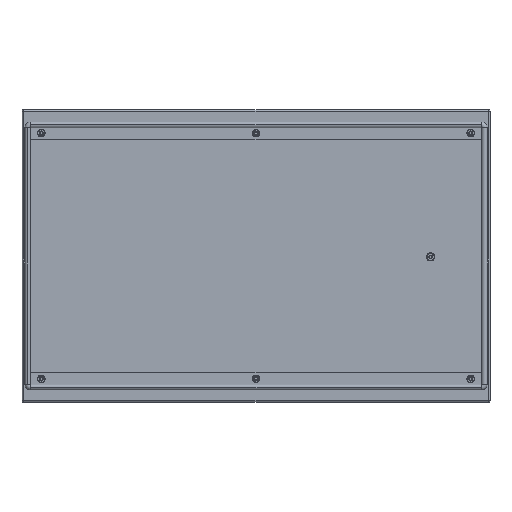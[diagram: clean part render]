
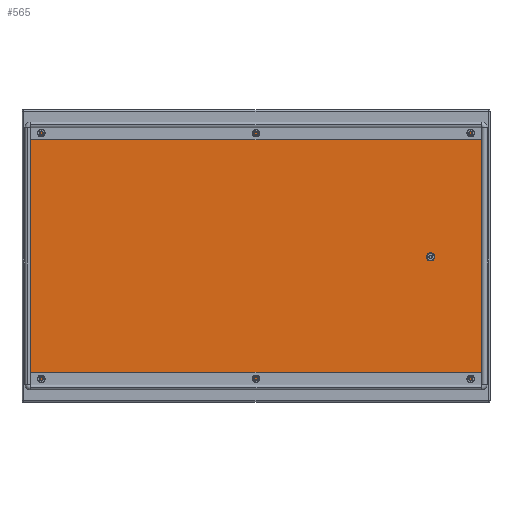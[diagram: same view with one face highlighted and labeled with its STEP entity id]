
A CAD part, top view. The second image highlights one B-rep face of the part: STEP entity #565.
In plain terms, the highlighted planar face has unit normal (0, 0, 1).
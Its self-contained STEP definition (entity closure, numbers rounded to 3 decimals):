
#247 = EDGE_CURVE ( 'NONE', #3568, #3566, #3117, .T. ) ;
#307 = EDGE_CURVE ( 'NONE', #3537, #3510, #3465, .T. ) ;
#308 = EDGE_CURVE ( 'NONE', #3549, #3537, #3889, .T. ) ;
#309 = EDGE_CURVE ( 'NONE', #3510, #3513, #3886, .T. ) ;
#310 = EDGE_CURVE ( 'NONE', #3513, #3507, #3479, .T. ) ;
#311 = EDGE_CURVE ( 'NONE', #3507, #3509, #3880, .T. ) ;
#312 = EDGE_CURVE ( 'NONE', #3509, #3506, #3474, .T. ) ;
#313 = EDGE_CURVE ( 'NONE', #3506, #3508, #3874, .T. ) ;
#314 = EDGE_CURVE ( 'NONE', #3508, #3549, #3412, .T. ) ;
#315 = EDGE_CURVE ( 'NONE', #3566, #3568, #3459, .T. ) ;
#565 = ADVANCED_FACE ( 'NONE', ( #4877, #4876 ), #1064, .T. ) ;
#717 = CARTESIAN_POINT ( 'NONE',  ( 294.5, -1.5, 0. ) ) ;
#719 = CARTESIAN_POINT ( 'NONE',  ( 302.5, -1.5, 0. ) ) ;
#736 = CARTESIAN_POINT ( 'NONE',  ( -398.5, 245.5, 0. ) ) ;
#748 = CARTESIAN_POINT ( 'NONE',  ( -398.5, -245.5, 0. ) ) ;
#772 = CARTESIAN_POINT ( 'NONE',  ( 395.5, -248.5, 0. ) ) ;
#774 = CARTESIAN_POINT ( 'NONE',  ( -395.5, -248.5, 0. ) ) ;
#775 = CARTESIAN_POINT ( 'NONE',  ( 398.5, 245.5, 0. ) ) ;
#776 = CARTESIAN_POINT ( 'NONE',  ( -395.5, 248.5, 0. ) ) ;
#777 = CARTESIAN_POINT ( 'NONE',  ( 398.5, -245.5, 0. ) ) ;
#778 = CARTESIAN_POINT ( 'NONE',  ( 395.5, 248.5, 0. ) ) ;
#1061 = DIRECTION ( 'NONE',  ( 1., 0., 0. ) ) ;
#1062 = DIRECTION ( 'NONE',  ( 0., 0., 1. ) ) ;
#1063 = CARTESIAN_POINT ( 'NONE',  ( 0., 0., 0. ) ) ;
#1064 = PLANE ( 'NONE',  #4883 ) ;
#1756 = EDGE_LOOP ( 'NONE', ( #2372, #2377 ) ) ;
#1781 = EDGE_LOOP ( 'NONE', ( #2358, #2362, #2368, #2355, #2359, #2360, #2367, #2369 ) ) ;
#2355 = ORIENTED_EDGE ( 'NONE', *, *, #310, .T. ) ;
#2358 = ORIENTED_EDGE ( 'NONE', *, *, #308, .T. ) ;
#2359 = ORIENTED_EDGE ( 'NONE', *, *, #311, .T. ) ;
#2360 = ORIENTED_EDGE ( 'NONE', *, *, #312, .T. ) ;
#2362 = ORIENTED_EDGE ( 'NONE', *, *, #307, .T. ) ;
#2367 = ORIENTED_EDGE ( 'NONE', *, *, #313, .T. ) ;
#2368 = ORIENTED_EDGE ( 'NONE', *, *, #309, .T. ) ;
#2369 = ORIENTED_EDGE ( 'NONE', *, *, #314, .T. ) ;
#2372 = ORIENTED_EDGE ( 'NONE', *, *, #315, .T. ) ;
#2377 = ORIENTED_EDGE ( 'NONE', *, *, #247, .T. ) ;
#3117 = CIRCLE ( 'NONE', #5357, 4. ) ;
#3412 = CIRCLE ( 'NONE', #5006, 3. ) ;
#3459 = CIRCLE ( 'NONE', #5010, 4. ) ;
#3465 = CIRCLE ( 'NONE', #5005, 3. ) ;
#3474 = CIRCLE ( 'NONE', #5007, 3. ) ;
#3479 = CIRCLE ( 'NONE', #5008, 3. ) ;
#3506 = VERTEX_POINT ( 'NONE', #778 ) ;
#3507 = VERTEX_POINT ( 'NONE', #777 ) ;
#3508 = VERTEX_POINT ( 'NONE', #776 ) ;
#3509 = VERTEX_POINT ( 'NONE', #775 ) ;
#3510 = VERTEX_POINT ( 'NONE', #774 ) ;
#3513 = VERTEX_POINT ( 'NONE', #772 ) ;
#3537 = VERTEX_POINT ( 'NONE', #748 ) ;
#3549 = VERTEX_POINT ( 'NONE', #736 ) ;
#3566 = VERTEX_POINT ( 'NONE', #719 ) ;
#3568 = VERTEX_POINT ( 'NONE', #717 ) ;
#3867 = DIRECTION ( 'NONE',  ( -1., 0., 0. ) ) ;
#3868 = DIRECTION ( 'NONE',  ( 0., 0., -1. ) ) ;
#3869 = CARTESIAN_POINT ( 'NONE',  ( 298.5, -1.5, 0. ) ) ;
#3870 = DIRECTION ( 'NONE',  ( 1., 0., 0. ) ) ;
#3871 = DIRECTION ( 'NONE',  ( 0., 0., 1. ) ) ;
#3872 = DIRECTION ( 'NONE',  ( -1., 0., 0. ) ) ;
#3873 = CARTESIAN_POINT ( 'NONE',  ( 400., 248.5, 0. ) ) ;
#3874 = LINE ( 'NONE', #3873, #5015 ) ;
#3875 = CARTESIAN_POINT ( 'NONE',  ( -395.5, 245.5, 0. ) ) ;
#3876 = DIRECTION ( 'NONE',  ( 1., 0., 0. ) ) ;
#3877 = DIRECTION ( 'NONE',  ( 0., 0., 1. ) ) ;
#3878 = DIRECTION ( 'NONE',  ( 0., 1., 0. ) ) ;
#3879 = CARTESIAN_POINT ( 'NONE',  ( 398.5, -250., 0. ) ) ;
#3880 = LINE ( 'NONE', #3879, #5013 ) ;
#3881 = CARTESIAN_POINT ( 'NONE',  ( 395.5, 245.5, 0. ) ) ;
#3882 = DIRECTION ( 'NONE',  ( 1., 0., 0. ) ) ;
#3883 = DIRECTION ( 'NONE',  ( 0., 0., 1. ) ) ;
#3884 = DIRECTION ( 'NONE',  ( 1., 0., 0. ) ) ;
#3885 = CARTESIAN_POINT ( 'NONE',  ( 400., -248.5, 0. ) ) ;
#3886 = LINE ( 'NONE', #3885, #5011 ) ;
#3887 = DIRECTION ( 'NONE',  ( 0., -1., 0. ) ) ;
#3888 = CARTESIAN_POINT ( 'NONE',  ( -398.5, -250., 0. ) ) ;
#3889 = LINE ( 'NONE', #3888, #5009 ) ;
#3890 = CARTESIAN_POINT ( 'NONE',  ( 395.5, -245.5, 0. ) ) ;
#3891 = DIRECTION ( 'NONE',  ( 1., 0., 0. ) ) ;
#3892 = DIRECTION ( 'NONE',  ( 0., 0., 1. ) ) ;
#3893 = CARTESIAN_POINT ( 'NONE',  ( -395.5, -245.5, 0. ) ) ;
#4071 = DIRECTION ( 'NONE',  ( -1., 0., 0. ) ) ;
#4072 = DIRECTION ( 'NONE',  ( 0., 0., -1. ) ) ;
#4079 = CARTESIAN_POINT ( 'NONE',  ( 298.5, -1.5, 0. ) ) ;
#4876 = FACE_BOUND ( 'NONE', #1756, .T. ) ;
#4877 = FACE_OUTER_BOUND ( 'NONE', #1781, .T. ) ;
#4883 = AXIS2_PLACEMENT_3D ( 'NONE', #1063, #1062, #1061 ) ;
#5005 = AXIS2_PLACEMENT_3D ( 'NONE', #3893, #3892, #3891 ) ;
#5006 = AXIS2_PLACEMENT_3D ( 'NONE', #3875, #3871, #3870 ) ;
#5007 = AXIS2_PLACEMENT_3D ( 'NONE', #3881, #3877, #3876 ) ;
#5008 = AXIS2_PLACEMENT_3D ( 'NONE', #3890, #3883, #3882 ) ;
#5009 = VECTOR ( 'NONE', #3887, 1000. ) ;
#5010 = AXIS2_PLACEMENT_3D ( 'NONE', #3869, #3868, #3867 ) ;
#5011 = VECTOR ( 'NONE', #3884, 1000. ) ;
#5013 = VECTOR ( 'NONE', #3878, 1000. ) ;
#5015 = VECTOR ( 'NONE', #3872, 1000. ) ;
#5357 = AXIS2_PLACEMENT_3D ( 'NONE', #4079, #4072, #4071 ) ;
